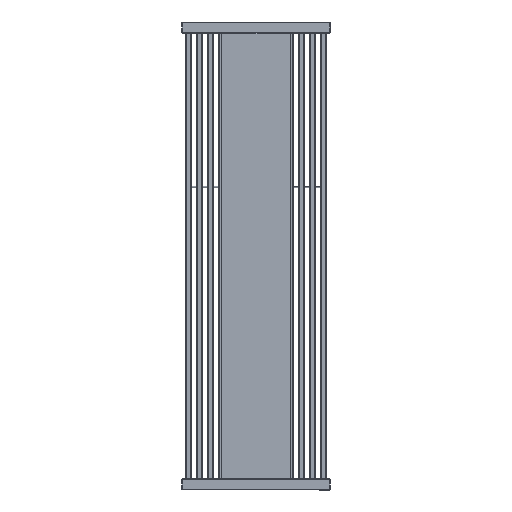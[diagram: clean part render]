
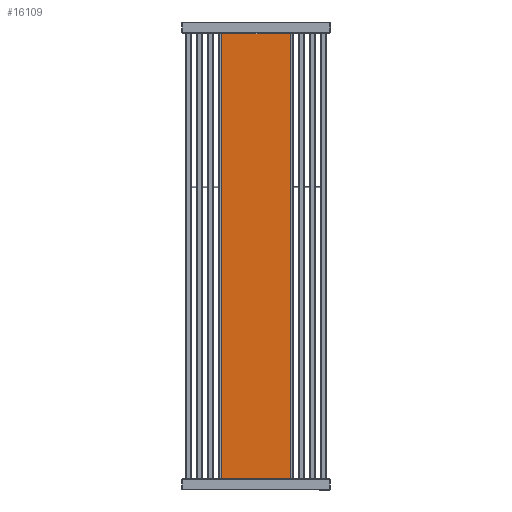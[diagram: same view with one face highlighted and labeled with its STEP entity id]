
A CAD part, front view. The second image highlights one B-rep face of the part: STEP entity #16109.
In plain terms, the highlighted planar face has unit normal (0, -1, 0).
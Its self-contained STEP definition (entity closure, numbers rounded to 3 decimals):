
#15924=CARTESIAN_POINT('',(-124.,-47.,42.5));
#15925=VERTEX_POINT('',#15924);
#15926=CARTESIAN_POINT('',(-124.,-47.,1657.5));
#15927=VERTEX_POINT('',#15926);
#15928=CARTESIAN_POINT('',(-124.,-47.,42.5));
#15929=DIRECTION('',(0.0,0.0,1.0));
#15930=VECTOR('',#15929,1615.0);
#15931=LINE('',#15928,#15930);
#15932=EDGE_CURVE('',#15925,#15927,#15931,.T.);
#15964=CARTESIAN_POINT('',(124.,-47.,1657.5));
#15965=VERTEX_POINT('',#15964);
#15966=CARTESIAN_POINT('',(-124.,-47.,1657.5));
#15967=DIRECTION('',(1.0,0.0,0.0));
#15968=VECTOR('',#15967,248.);
#15969=LINE('',#15966,#15968);
#15970=EDGE_CURVE('',#15927,#15965,#15969,.T.);
#15995=CARTESIAN_POINT('',(124.,-47.,42.5));
#15996=VERTEX_POINT('',#15995);
#15997=CARTESIAN_POINT('',(124.,-47.,1657.5));
#15998=DIRECTION('',(0.0,0.0,-1.0));
#15999=VECTOR('',#15998,1615.0);
#16000=LINE('',#15997,#15999);
#16001=EDGE_CURVE('',#15965,#15996,#16000,.T.);
#16026=CARTESIAN_POINT('',(124.,-47.,42.5));
#16027=DIRECTION('',(-1.0,0.0,0.0));
#16028=VECTOR('',#16027,248.);
#16029=LINE('',#16026,#16028);
#16030=EDGE_CURVE('',#15996,#15925,#16029,.T.);
#16098=CARTESIAN_POINT('',(0.,-47.,850.));
#16099=DIRECTION('',(0.0,-1.0,0.0));
#16100=DIRECTION('',(-1.0,0.0,0.0));
#16101=AXIS2_PLACEMENT_3D('',#16098,#16099,#16100);
#16102=PLANE('',#16101);
#16103=ORIENTED_EDGE('',*,*,#15932,.F.);
#16104=ORIENTED_EDGE('',*,*,#16030,.F.);
#16105=ORIENTED_EDGE('',*,*,#16001,.F.);
#16106=ORIENTED_EDGE('',*,*,#15970,.F.);
#16107=EDGE_LOOP('',(#16103,#16104,#16105,#16106));
#16108=FACE_OUTER_BOUND('',#16107,.T.);
#16109=ADVANCED_FACE('',(#16108),#16102,.T.);
